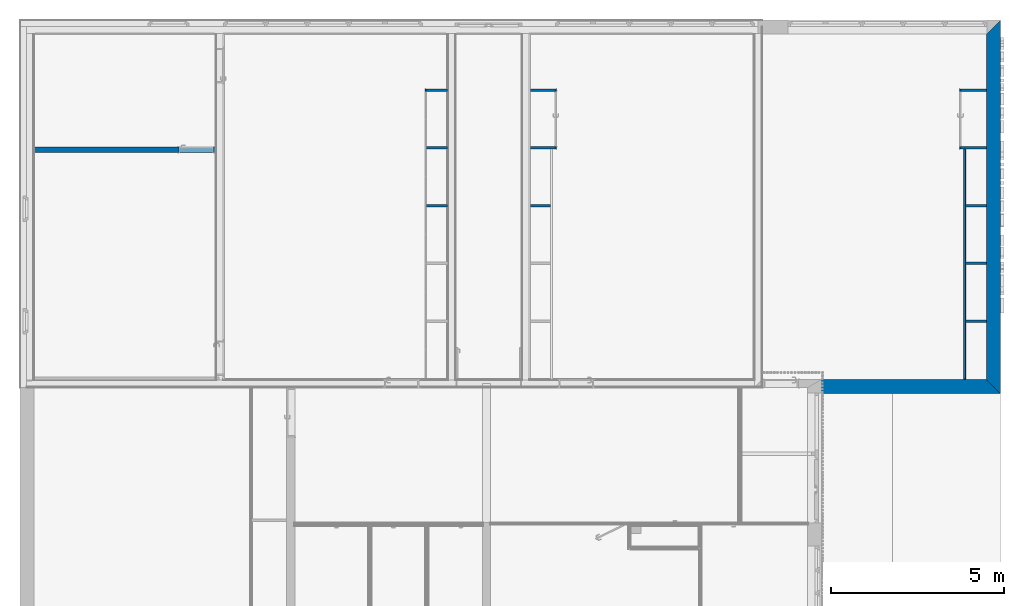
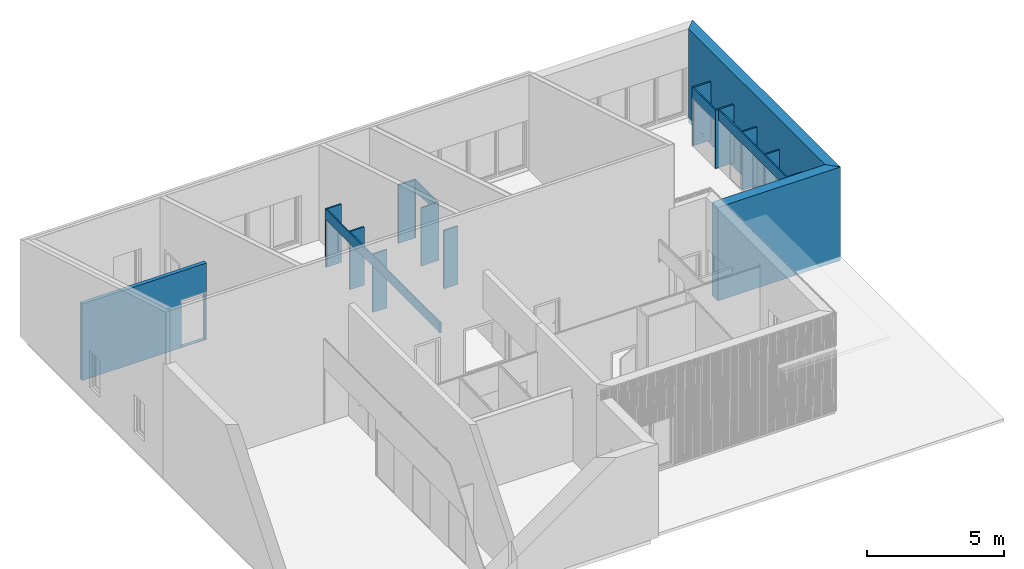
# One storey, part 5 of 34: 18 walls, 5 openings.
"""IFC2X3 building model written with IfcOpenShell, lengths in metres."""

from ifc_helpers import new_model, entity, si_unit, converted_unit, derived_unit, money_unit, direction, frame, origin_with_axes, origin_2d_with_axis, place, context, subcontext, project, spatial, polyline, rectangle, outline, extrude, material, layer, layer_set, layer_usage, type_object, element, save


model = new_model("IFC2X3")

# Units and contexts
model_context = context("Model", 3, precision=1e-05, world=origin_with_axes(), true_north=direction((0.0, 1.0)))
body_context = subcontext(model_context, "Body", "Model", "MODEL_VIEW")
ifc_project = project(units=[si_unit("LENGTHUNIT", "METRE"), si_unit("AREAUNIT", "SQUARE_METRE"), si_unit("VOLUMEUNIT", "CUBIC_METRE"), converted_unit("PLANEANGLEUNIT", "DEGREE", entity("IfcPlaneAngleMeasure", 0.0174532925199), si_unit("PLANEANGLEUNIT", "RADIAN"), dimensions=[0, 0, 0, 0, 0, 0, 0]), money_unit("CHF"), converted_unit("TIMEUNIT", "Year", entity("IfcTimeMeasure", 31556926.0), si_unit("TIMEUNIT", "SECOND"), dimensions=[0, 0, 1, 0, 0, 0, 0]), si_unit("MASSUNIT", "GRAM", prefix="KILO"), si_unit("THERMODYNAMICTEMPERATUREUNIT", "DEGREE_CELSIUS"), si_unit("LUMINOUSINTENSITYUNIT", "LUMEN"), si_unit("ENERGYUNIT", "JOULE", prefix="MEGA"), derived_unit("THERMALCONDUCTANCEUNIT", [(si_unit("POWERUNIT", "WATT"), 1), (si_unit("LENGTHUNIT", "METRE"), -1), (si_unit("THERMODYNAMICTEMPERATUREUNIT", "KELVIN"), -1)]), derived_unit("SPECIFICHEATCAPACITYUNIT", [(si_unit("ENERGYUNIT", "JOULE"), 1), (si_unit("MASSUNIT", "GRAM", prefix="KILO"), -1), (si_unit("THERMODYNAMICTEMPERATUREUNIT", "KELVIN"), -1)]), derived_unit("MASSDENSITYUNIT", [(si_unit("MASSUNIT", "GRAM", prefix="KILO"), 1), (si_unit("VOLUMEUNIT", "CUBIC_METRE"), -1)])], contexts=[model_context])

# Site, building, storey
site_placement = place(None, origin_with_axes())
site = spatial("IfcSite", under=ifc_project, at=site_placement, Name="Site", CompositionType="ELEMENT")
building_placement = place(site_placement, origin_with_axes())
building = spatial("IfcBuilding", under=site, at=building_placement, Name="Bâtiment", CompositionType="ELEMENT")
storey_placement = place(building_placement, origin_with_axes())
storey = spatial("IfcBuildingStorey", under=building, at=storey_placement, Name="Rez-de-chaussée", CompositionType="ELEMENT", Elevation=0.0)

# Walls
ifc_material_1 = material(Name="Finition int - Enduit minéral")
ifc_layer_1 = layer(ifc_material_1, 0.01, ventilated="UNKNOWN")
ifc_material_2 = material(Name="Isolation - Fibres de bois")
ifc_layer_2 = layer(ifc_material_2, 0.18, ventilated="UNKNOWN")
ifc_material_3 = material(Name="Béton armé (Coulé)")
ifc_layer_3 = layer(ifc_material_3, 0.2, ventilated="UNKNOWN")
ifc_material_4 = material(Name="Finition int - Enduit plâtre")
ifc_layer_4 = layer(ifc_material_4, 0.02, ventilated="UNKNOWN")
ifc_layer_set_1 = layer_set([ifc_layer_1, ifc_layer_2, ifc_layer_3, ifc_layer_4], Name="Mur 20cm + iso 18 + enduit")
ifc_layer_usage_1 = layer_usage(ifc_layer_set_1, "AXIS2", "NEGATIVE", 0.29)
wall_type_1 = type_object("IfcWallType", Name="Mur 20cm + iso 18 + enduit  410", PredefinedType="NOTDEFINED")
wall_1_placement = place(storey_placement, frame((38.9194697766, 25.2201256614, -0.21), z_axis=(0.0, 0.0, 1.0), x_axis=(0.0, -1.0, 0.0)))
element("IfcWallStandardCase", 1, at=wall_1_placement, inside=storey, type_object=wall_type_1, material=ifc_layer_usage_1, Name="Mur ext 20+18isolant", context=body_context, shape_type="SweptSolid", body=[
    extrude(outline(polyline([(0.12, -0.12), (10.1001256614, -0.12), (10.5101256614, 0.29), (-0.29, 0.29), (0.12, -0.12)])), origin_with_axes(), (0.0, 0.0, 1.0), 4.17),
])
ifc_layer_usage_2 = layer_usage(ifc_layer_set_1, "AXIS2", "NEGATIVE", 0.29)
wall_2_placement = place(storey_placement, frame((38.9194697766, 15.0, -0.21), z_axis=(0.0, 0.0, 1.0), x_axis=(-1.0, 0.0, 0.0)))
element("IfcWallStandardCase", 2, at=wall_2_placement, inside=storey, type_object=wall_type_1, material=ifc_layer_usage_2, Name="Mur ext 20+18isolant", context=body_context, shape_type="SweptSolid", body=[
    extrude(outline(polyline([(0.12, -0.12), (4.88, -0.12), (4.88, 0.29), (-0.29, 0.29), (0.12, -0.12)])), origin_with_axes(), (0.0, 0.0, 1.0), 4.17),
])
ifc_material_5 = material(Name="Finition int - Plaque de plâtre")
ifc_layer_5 = layer(ifc_material_5, 0.013, ventilated="UNKNOWN")
ifc_material_6 = material(Name="Isolation - Laine de verre")
ifc_layer_6 = layer(ifc_material_6, 0.044, ventilated="UNKNOWN")
ifc_layer_7 = layer(ifc_material_5, 0.013, ventilated="UNKNOWN")
ifc_layer_set_2 = layer_set([ifc_layer_5, ifc_layer_6, ifc_layer_7], Name="Cloison 72/48")
ifc_layer_usage_3 = layer_usage(ifc_layer_set_2, "AXIS2", "POSITIVE", 0.0)
wall_type_2 = type_object("IfcWallType", Name="Cloison 72/48 70", PredefinedType="NOTDEFINED")
wall_3_placement = place(storey_placement, frame((38.0294697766, 21.78, 0.0), z_axis=(0.0, 0.0, 1.0), x_axis=(1.0, 0.0, 0.0)))
element("IfcWallStandardCase", 3, at=wall_3_placement, inside=storey, type_object=wall_type_2, material=ifc_layer_usage_3, Name="MUR_EXT-006", context=body_context, shape_type="SweptSolid", body=[
    extrude(outline(polyline([(0.0, 0.0), (0.77, 0.0), (0.77, 0.07), (0.05, 0.07), (0.0, 0.0)])), origin_with_axes(), (0.0, 0.0, 1.0), 2.6),
])
ifc_layer_usage_4 = layer_usage(ifc_layer_set_2, "AXIS2", "POSITIVE", 0.0)
wall_4_placement = place(storey_placement, frame((38.0294697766, 23.45, 0.0), z_axis=(0.0, 0.0, 1.0), x_axis=(1.0, 0.0, 0.0)))
element("IfcWallStandardCase", 4, at=wall_4_placement, inside=storey, type_object=wall_type_2, material=ifc_layer_usage_4, Name="MUR_EXT-006", context=body_context, shape_type="SweptSolid", body=[
    extrude(outline(polyline([(0.05, 0.0), (0.77, 0.0), (0.77, 0.07), (0.0, 0.07), (0.05, 0.0)])), origin_with_axes(), (0.0, 0.0, 1.0), 2.6),
])
ifc_layer_usage_5 = layer_usage(ifc_layer_set_2, "AXIS2", "POSITIVE", 0.0)
wall_5_placement = place(storey_placement, frame((38.1994697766, 20.11, 0.0), z_axis=(0.0, 0.0, 1.0), x_axis=(1.0, 0.0, 0.0)))
element("IfcWallStandardCase", 5, at=wall_5_placement, inside=storey, type_object=wall_type_2, material=ifc_layer_usage_5, Name="MUR_EXT-006", context=body_context, shape_type="SweptSolid", body=[
    extrude(outline(polyline([(0.0, 0.0), (0.6, 0.0), (0.6, 0.07), (0.0, 0.07), (0.0, 0.0)])), origin_with_axes(), (0.0, 0.0, 1.0), 2.6),
])
ifc_layer_usage_6 = layer_usage(ifc_layer_set_2, "AXIS2", "POSITIVE", 0.0)
wall_6_placement = place(storey_placement, frame((38.1994697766, 16.77, 0.0), z_axis=(0.0, 0.0, 1.0), x_axis=(1.0, 0.0, 0.0)))
element("IfcWallStandardCase", 6, at=wall_6_placement, inside=storey, type_object=wall_type_2, material=ifc_layer_usage_6, Name="MUR_EXT-006", context=body_context, shape_type="SweptSolid", body=[
    extrude(outline(polyline([(0.0, 0.0), (0.6, 0.0), (0.6, 0.07), (0.0, 0.07), (0.0, 0.0)])), origin_with_axes(), (0.0, 0.0, 1.0), 2.6),
])
ifc_layer_usage_7 = layer_usage(ifc_layer_set_2, "AXIS2", "POSITIVE", 0.0)
wall_7_placement = place(storey_placement, frame((38.1994697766, 18.44, 0.0), z_axis=(0.0, 0.0, 1.0), x_axis=(1.0, 0.0, 0.0)))
element("IfcWallStandardCase", 7, at=wall_7_placement, inside=storey, type_object=wall_type_2, material=ifc_layer_usage_7, Name="MUR_EXT-006", context=body_context, shape_type="SweptSolid", body=[
    extrude(outline(polyline([(0.0, 0.0), (0.6, 0.0), (0.6, 0.07), (0.0, 0.07), (0.0, 0.0)])), origin_with_axes(), (0.0, 0.0, 1.0), 2.6),
])
ifc_layer_usage_8 = layer_usage(ifc_layer_set_2, "AXIS2", "NEGATIVE", 0.0)
wall_8_placement = place(storey_placement, frame((26.1994697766, 20.11, 0.0), z_axis=(0.0, 0.0, 1.0), x_axis=(-1.0, 0.0, 0.0)))
element("IfcWallStandardCase", 8, at=wall_8_placement, inside=storey, type_object=wall_type_2, material=ifc_layer_usage_8, Name="MUR_EXT-006", context=body_context, shape_type="SweptSolid", body=[
    extrude(outline(polyline([(0.0, -0.07), (0.58, -0.07), (0.58, 0.0), (0.0, 0.0), (0.0, -0.07)])), origin_with_axes(), (0.0, 0.0, 1.0), 2.6),
])
ifc_layer_usage_9 = layer_usage(ifc_layer_set_2, "AXIS2", "NEGATIVE", 0.0)
wall_9_placement = place(storey_placement, frame((26.3694697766, 21.78, 0.0), z_axis=(0.0, 0.0, 1.0), x_axis=(-1.0, 0.0, 0.0)))
element("IfcWallStandardCase", 9, at=wall_9_placement, inside=storey, type_object=wall_type_2, material=ifc_layer_usage_9, Name="MUR_EXT-006", context=body_context, shape_type="SweptSolid", body=[
    extrude(outline(polyline([(0.05, -0.07), (0.75, -0.07), (0.75, 0.0), (0.0, 0.0), (0.05, -0.07)])), origin_with_axes(), (0.0, 0.0, 1.0), 2.6),
])
ifc_layer_usage_10 = layer_usage(ifc_layer_set_2, "AXIS2", "NEGATIVE", 0.0)
wall_10_placement = place(storey_placement, frame((26.3694697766, 23.45, 0.0), z_axis=(0.0, 0.0, 1.0), x_axis=(-1.0, 0.0, 0.0)))
element("IfcWallStandardCase", 10, at=wall_10_placement, inside=storey, type_object=wall_type_2, material=ifc_layer_usage_10, Name="MUR_EXT-006", context=body_context, shape_type="SweptSolid", body=[
    extrude(outline(polyline([(0.0, -0.07), (0.75, -0.07), (0.75, 0.0), (0.05, 0.0), (0.0, -0.07)])), origin_with_axes(), (0.0, 0.0, 1.0), 2.6),
])
ifc_layer_usage_11 = layer_usage(ifc_layer_set_2, "AXIS2", "POSITIVE", 0.0)
wall_11_placement = place(storey_placement, frame((22.6194697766, 20.11, 0.0), z_axis=(0.0, 0.0, 1.0), x_axis=(1.0, 0.0, 0.0)))
element("IfcWallStandardCase", 11, at=wall_11_placement, inside=storey, type_object=wall_type_2, material=ifc_layer_usage_11, Name="MUR_EXT-006", context=body_context, shape_type="SweptSolid", body=[
    extrude(outline(polyline([(0.0, 0.0), (0.6, 0.0), (0.6, 0.07), (0.0, 0.07), (0.0, 0.0)])), origin_with_axes(), (0.0, 0.0, 1.0), 2.6),
])
ifc_layer_usage_12 = layer_usage(ifc_layer_set_2, "AXIS2", "POSITIVE", 0.0)
wall_12_placement = place(storey_placement, frame((22.6194697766, 21.78, 0.0), z_axis=(0.0, 0.0, 1.0), x_axis=(1.0, 0.0, 0.0)))
element("IfcWallStandardCase", 12, at=wall_12_placement, inside=storey, type_object=wall_type_2, material=ifc_layer_usage_12, Name="MUR_EXT-006", context=body_context, shape_type="SweptSolid", body=[
    extrude(outline(polyline([(0.0, 0.0), (0.6, 0.0), (0.6, 0.07), (0.0, 0.07), (0.0, 0.0)])), origin_with_axes(), (0.0, 0.0, 1.0), 2.6),
])
ifc_layer_usage_13 = layer_usage(ifc_layer_set_2, "AXIS2", "POSITIVE", 0.0)
wall_13_placement = place(storey_placement, frame((22.6194697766, 23.45, 0.0), z_axis=(0.0, 0.0, 1.0), x_axis=(1.0, 0.0, 0.0)))
element("IfcWallStandardCase", 13, at=wall_13_placement, inside=storey, type_object=wall_type_2, material=ifc_layer_usage_13, Name="MUR_EXT-006", context=body_context, shape_type="SweptSolid", body=[
    extrude(outline(polyline([(0.0, 0.0), (0.6, 0.0), (0.6, 0.07), (-0.05, 0.07), (0.0, 0.0)])), origin_with_axes(), (0.0, 0.0, 1.0), 2.6),
])

# Wall, opening
ifc_layer_8 = layer(ifc_material_5, 0.013, ventilated="UNKNOWN")
ifc_layer_9 = layer(ifc_material_6, 0.024, ventilated="UNKNOWN")
ifc_layer_10 = layer(ifc_material_5, 0.013, ventilated="UNKNOWN")
ifc_layer_set_3 = layer_set([ifc_layer_8, ifc_layer_9, ifc_layer_10], Name="Cloison 50")
ifc_layer_usage_14 = layer_usage(ifc_layer_set_3, "AXIS2", "POSITIVE", -0.05)
wall_type_3 = type_object("IfcWallType", Name="Cloison 50 50", PredefinedType="NOTDEFINED")
wall_14_placement = place(storey_placement, frame((38.1994697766, 21.78, 0.0), z_axis=(0.0, 0.0, 1.0), x_axis=(0.0, -1.0, 0.0)))
wall_14 = element("IfcWallStandardCase", 14, at=wall_14_placement, inside=storey, type_object=wall_type_3, material=ifc_layer_usage_14, Name="MUR_EXT-006", context=body_context, shape_type="SweptSolid", body=[
    extrude(outline(polyline([(0.0, -0.05), (6.66, -0.05), (6.66, 0.0), (0.0, 0.0), (0.0, -0.05)])), origin_with_axes(), (0.0, 0.0, 1.0), 2.6),
])
opening_1_placement = place(wall_14_placement, frame((3.33, 0.0, 0.0), z_axis=(0.0, 0.0, 1.0), x_axis=(1.0, 0.0, 0.0)))
element("IfcOpeningElement", 15, at=opening_1_placement, cuts=wall_14, Name="Portes placard couliisantes 4x2panneaux", context=body_context, shape_type="SweptSolid", body=[
    extrude(rectangle(XDim=6.66, YDim=2.13, at=origin_2d_with_axis()), frame((0.0, 0.05, 1.065), z_axis=(0.0, -1.0, 0.0), x_axis=(1.0, 0.0, 0.0)), (0.0, 0.0, 1.0), 0.15),
])

ifc_layer_usage_15 = layer_usage(ifc_layer_set_3, "AXIS2", "POSITIVE", -0.05)
wall_15_placement = place(storey_placement, frame((38.0294697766, 21.78, 0.0), z_axis=(0.0, 0.0, 1.0), x_axis=(0.0, 1.0, 0.0)))
wall_15 = element("IfcWallStandardCase", 16, at=wall_15_placement, inside=storey, type_object=wall_type_3, material=ifc_layer_usage_15, Name="MUR_EXT-006", context=body_context, shape_type="SweptSolid", body=[
    extrude(outline(polyline([(0.07, -0.05), (1.67, -0.05), (1.74, 0.0), (0.0, 0.0), (0.07, -0.05)])), origin_with_axes(), (0.0, 0.0, 1.0), 2.6),
])
opening_2_placement = place(wall_15_placement, frame((0.87, 0.0, 0.0), z_axis=(0.0, 0.0, 1.0), x_axis=(1.0, 0.0, 0.0)))
element("IfcOpeningElement", 17, at=opening_2_placement, cuts=wall_15, Name="PORTE-002", context=body_context, shape_type="SweptSolid", body=[
    extrude(rectangle(XDim=1.6, YDim=2.1, at=origin_2d_with_axis()), frame((0.0, 0.05, 1.05), z_axis=(0.0, -1.0, 0.0), x_axis=(1.0, 0.0, 0.0)), (0.0, 0.0, 1.0), 0.15),
    extrude(rectangle(XDim=1.66, YDim=2.13, at=origin_2d_with_axis()), frame((0.0, 0.0, 1.065), z_axis=(0.0, -1.0, 0.0), x_axis=(1.0, 0.0, 0.0)), (0.0, 0.0, -1.0), 0.05),
])

ifc_layer_usage_16 = layer_usage(ifc_layer_set_3, "AXIS2", "NEGATIVE", 0.05)
wall_16_placement = place(storey_placement, frame((26.3694697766, 21.78, 0.0), z_axis=(0.0, 0.0, 1.0), x_axis=(0.0, 1.0, 0.0)))
wall_16 = element("IfcWallStandardCase", 18, at=wall_16_placement, inside=storey, type_object=wall_type_3, material=ifc_layer_usage_16, Name="MUR_EXT-006", context=body_context, shape_type="SweptSolid", body=[
    extrude(outline(polyline([(0.0, 0.0), (1.74, 0.0), (1.67, 0.05), (0.07, 0.05), (0.0, 0.0)])), origin_with_axes(), (0.0, 0.0, 1.0), 2.6),
])
opening_3_placement = place(wall_16_placement, frame((0.87, 0.0, 0.0), z_axis=(0.0, 0.0, 1.0), x_axis=(1.0, 0.0, 0.0)))
element("IfcOpeningElement", 19, at=opening_3_placement, cuts=wall_16, Name="PORTE-002", context=body_context, shape_type="SweptSolid", body=[
    extrude(rectangle(XDim=1.6, YDim=2.1, at=origin_2d_with_axis()), frame((0.0, -0.05, 1.05), z_axis=(0.0, -1.0, 0.0), x_axis=(1.0, 0.0, 0.0)), (0.0, 0.0, -1.0), 0.15),
    extrude(rectangle(XDim=1.66, YDim=2.13, at=origin_2d_with_axis()), frame((0.0, 0.0, 1.065), z_axis=(0.0, -1.0, 0.0), x_axis=(1.0, 0.0, 0.0)), (0.0, 0.0, 1.0), 0.05),
])

ifc_layer_usage_17 = layer_usage(ifc_layer_set_3, "AXIS2", "POSITIVE", -0.05)
wall_17_placement = place(storey_placement, frame((22.6194697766, 23.45, 0.0), z_axis=(0.0, 0.0, 1.0), x_axis=(0.0, -1.0, 0.0)))
wall_17 = element("IfcWallStandardCase", 20, at=wall_17_placement, inside=storey, type_object=wall_type_3, material=ifc_layer_usage_17, Name="MUR_EXT-006", context=body_context, shape_type="SweptSolid", body=[
    extrude(outline(polyline([(-0.07, -0.05), (8.33, -0.05), (8.33, 0.0), (0.0, 0.0), (-0.07, -0.05)])), origin_with_axes(), (0.0, 0.0, 1.0), 2.6),
])
opening_4_placement = place(wall_17_placement, frame((4.165, 0.0, 0.0), z_axis=(0.0, 0.0, 1.0), x_axis=(1.0, 0.0, 0.0)))
element("IfcOpeningElement", 21, at=opening_4_placement, cuts=wall_17, Name="Portes placard couliisantes 5x2panneaux", context=body_context, shape_type="SweptSolid", body=[
    extrude(rectangle(XDim=8.33, YDim=2.13, at=origin_2d_with_axis()), frame((0.0, 0.05, 1.065), z_axis=(0.0, -1.0, 0.0), x_axis=(1.0, 0.0, 0.0)), (0.0, 0.0, 1.0), 0.15),
])

ifc_layer_11 = layer(ifc_material_5, 0.013, ventilated="UNKNOWN")
ifc_layer_12 = layer(ifc_material_5, 0.0125, ventilated="UNKNOWN")
ifc_layer_13 = layer(ifc_material_6, 0.048, ventilated="UNKNOWN")
ifc_material_7 = material(Name="Armature de cloison")
ifc_layer_14 = layer(ifc_material_7, 0.012, ventilated="UNKNOWN")
ifc_layer_15 = layer(ifc_material_6, 0.048, ventilated="UNKNOWN")
ifc_layer_16 = layer(ifc_material_5, 0.0125, ventilated="UNKNOWN")
ifc_layer_17 = layer(ifc_material_5, 0.0125, ventilated="UNKNOWN")
ifc_layer_set_4 = layer_set([ifc_layer_11, ifc_layer_12, ifc_layer_13, ifc_layer_14, ifc_layer_15, ifc_layer_16, ifc_layer_17], Name="Cloison SAD 160")
ifc_layer_usage_18 = layer_usage(ifc_layer_set_4, "AXIS2", "POSITIVE", 0.0)
wall_type_4 = type_object("IfcWallType", Name="Cloison SAD 160 159", PredefinedType="NOTDEFINED")
wall_18_placement = place(storey_placement, frame((11.1494697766, 21.68, -0.01), z_axis=(0.0, 0.0, 1.0), x_axis=(1.0, 0.0, 0.0)))
wall_18 = element("IfcWallStandardCase", 22, at=wall_18_placement, inside=storey, type_object=wall_type_4, material=ifc_layer_usage_18, Name="Cloison SAD 160", context=body_context, shape_type="SweptSolid", body=[
    extrude(outline(polyline([(0.12, 0.0), (5.37, 0.0), (5.37, 0.1585), (0.12, 0.1585), (0.12, 0.0)])), origin_with_axes(), (0.0, 0.0, 1.0), 3.41),
])
opening_5_placement = place(wall_18_placement, frame((4.805, 0.0, 0.01), z_axis=(0.0, 0.0, 1.0), x_axis=(1.0, 0.0, 0.0)))
element("IfcOpeningElement", 23, at=opening_5_placement, cuts=wall_18, Name="PORTE-PP90 A2 - PF1/2H", context=body_context, shape_type="SweptSolid", body=[
    extrude(rectangle(XDim=1.0, YDim=2.1, at=origin_2d_with_axis()), frame((0.0, 0.1585, 1.05), z_axis=(0.0, -1.0, 0.0), x_axis=(1.0, 0.0, 0.0)), (0.0, 0.0, 1.0), 0.4755),
    extrude(rectangle(XDim=1.1, YDim=2.15, at=origin_2d_with_axis()), frame((0.0, 0.1585, 1.075), z_axis=(0.0, -1.0, 0.0), x_axis=(1.0, 0.0, 0.0)), (0.0, 0.0, -1.0), 0.1585),
    extrude(rectangle(XDim=1.09, YDim=2.145, at=origin_2d_with_axis()), frame((0.0, 0.0, 1.0725), z_axis=(0.0, 1.0, 0.0), x_axis=(1.0, 0.0, 0.0)), (0.0, 0.0, -1.0), 0.1585),
])

save(model, "model.ifc")
